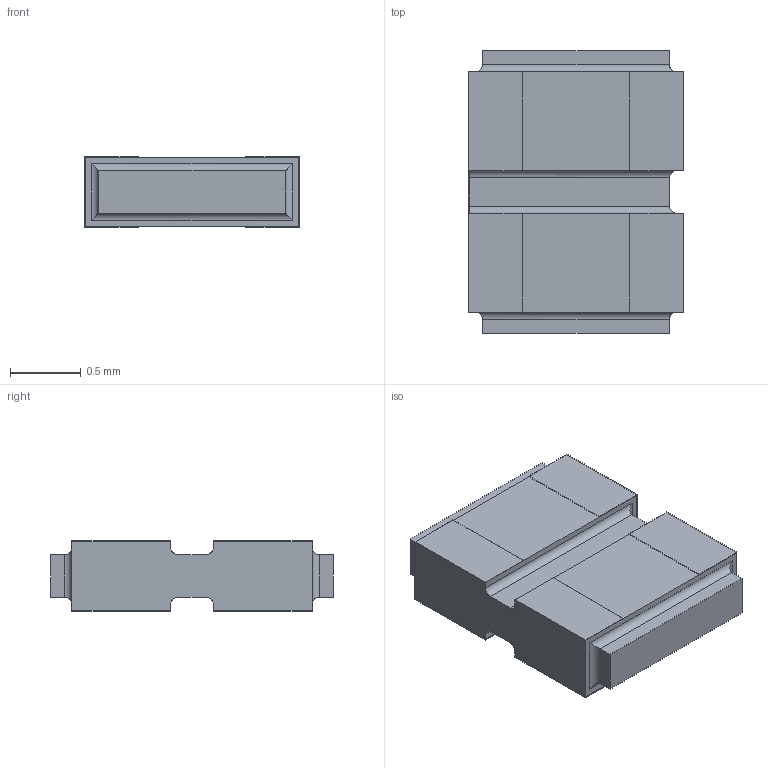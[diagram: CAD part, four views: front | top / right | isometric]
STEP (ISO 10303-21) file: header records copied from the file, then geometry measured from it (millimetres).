
FILE_DESCRIPTION(/* description */ (''),/* implementation_level */ '2;1');
FILE_NAME(/* name */ 'S:\DOCUMENT\AUTOCAD\3D_Modèles\10_3D-pour-VISHAY-COM\PRA\PRA100\PRA100-C2_à_C8\20_STEP\PRA100C2_B-or-N-or-G.stp',/* time_stamp */ '2017-12-18T09:19:13+01:00',/* author */ ('dparmentier'),/* organization */ ('unknown'),/* preprocessor_version */ 'ST-DEVELOPER v17',/* originating_system */ 'Autodesk Inventor 2018',/* authorisation */ '');
FILE_SCHEMA (('AUTOMOTIVE_DESIGN { 1 0 10303 214 3 1 1 }'));
Length unit declared in the file: millimetre
Products named in the file (1): PRA100C2_B-or-N-or-G
Bounding box: 1.52 x 2 x 0.5 mm (x, y, z)
Volume: 1.3 mm3; surface area: 16.7 mm2
Topology: 4 solids, 4 shells, 84 faces, 210 edges, 136 vertices
Faces by surface type: plane 66, cylinder 18
Entity records: 2512 total; most frequent: CARTESIAN_POINT 431, ORIENTED_EDGE 420, DIRECTION 404, EDGE_CURVE 210, LINE 186, VECTOR 186, VERTEX_POINT 136, AXIS2_PLACEMENT_3D 109
